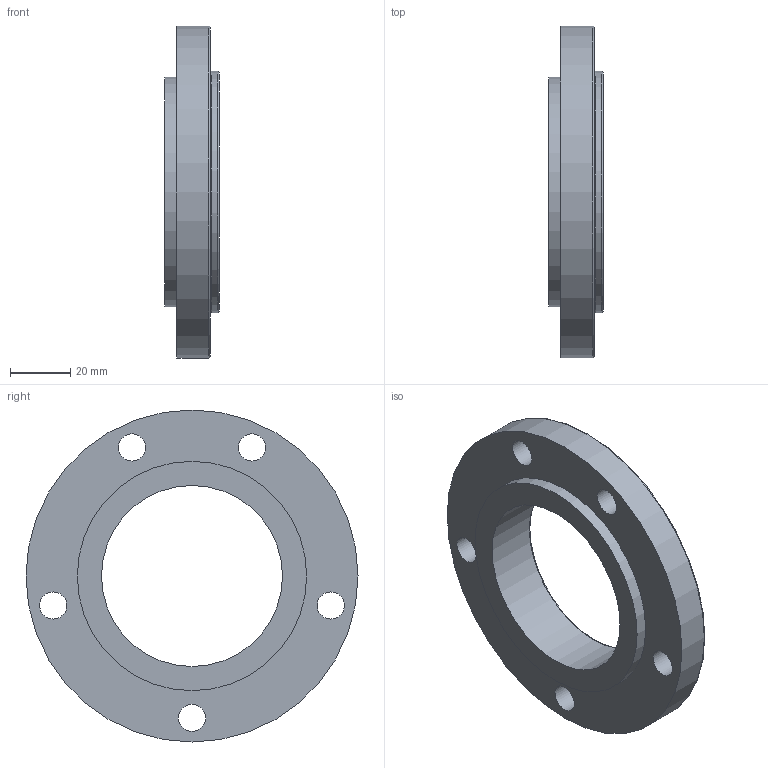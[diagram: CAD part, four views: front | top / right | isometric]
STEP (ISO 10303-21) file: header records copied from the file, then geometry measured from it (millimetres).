
FILE_DESCRIPTION((''),'2;1');
FILE_NAME('D:\PAWEŁ\ZLECENIA\2011 DualSystem\001 Modele\DKAB30_\DK_30_STEP\AZ_30.stp','2012-05-14T21:33:02',('admin'),(''),'Autodesk Inventor 2009','Autodesk Inventor 2009','');
FILE_SCHEMA(('AUTOMOTIVE_DESIGN { 1 0 10303 214 1 1 1 1 }'));
Length unit declared in the file: millimetre
Products named in the file (1): AZ_30
Bounding box: 18 x 110 x 110 mm (x, y, z)
Volume: 83337.2 mm3; surface area: 22951.1 mm2
Topology: 1 solids, 1 shells, 17 faces, 40 edges, 27 vertices
Faces by surface type: bspline 6, cylinder 4, plane 4, torus 3
Full cylindrical faces by diameter (mm): 60 x1, 76 x1, 80 x1, 110 x1
Entity records: 549 total; most frequent: CARTESIAN_POINT 191, DIRECTION 68, ORIENTED_EDGE 44, EDGE_LOOP 44, AXIS2_PLACEMENT_3D 34, FACE_BOUND 27, VERTEX_POINT 22, CIRCLE 22
